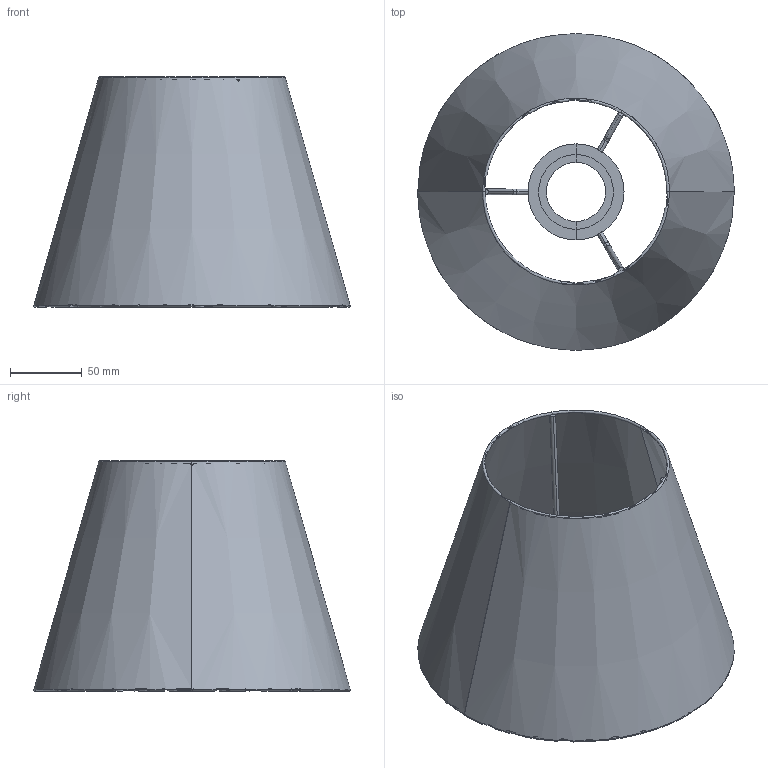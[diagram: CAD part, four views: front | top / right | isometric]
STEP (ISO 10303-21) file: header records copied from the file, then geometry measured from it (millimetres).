
FILE_DESCRIPTION(/* description */ (''),/* implementation_level */ '2;1');
FILE_NAME(/* name */ 'C:\Users\Franco Sartori E\Documents\FARO\DUPLICADO\Modelos\01_Digitalizados\00_OK\0_Pantallas\03_Publicación\2P021X\2P0212.stp',/* time_stamp */ '2020-12-24T12:42:40+01:00',/* author */ ('Franco Sartori E'),/* organization */ (''),/* preprocessor_version */ 'ST-DEVELOPER v18.1',/* originating_system */ 'AutoCAD Mechanical',/* authorisation */ '');
FILE_SCHEMA (('AUTOMOTIVE_DESIGN { 1 0 10303 214 3 1 1 }'));
Length unit declared in the file: millimetre
Products named in the file (2): Product; 2P0211_SHADE - Shade-450224-_3D_
Assembly tree (1 placements, depth 2):
  Product
    2P0211_SHADE - Shade-450224-_3D_
Bounding box: 220 x 220 x 160 mm (x, y, z)
Volume: 157224 mm3; surface area: 373542.6 mm2
Topology: 7 solids, 7 shells, 56 faces, 106 edges, 56 vertices
Faces by surface type: cylinder 20, plane 14, cone 12, torus 10
Entity records: 2806 total; most frequent: CARTESIAN_POINT 1654, DIRECTION 238, ORIENTED_EDGE 212, EDGE_CURVE 106, AXIS2_PLACEMENT_3D 99, FACE_OUTER_BOUND 56, EDGE_LOOP 56, VERTEX_POINT 56
